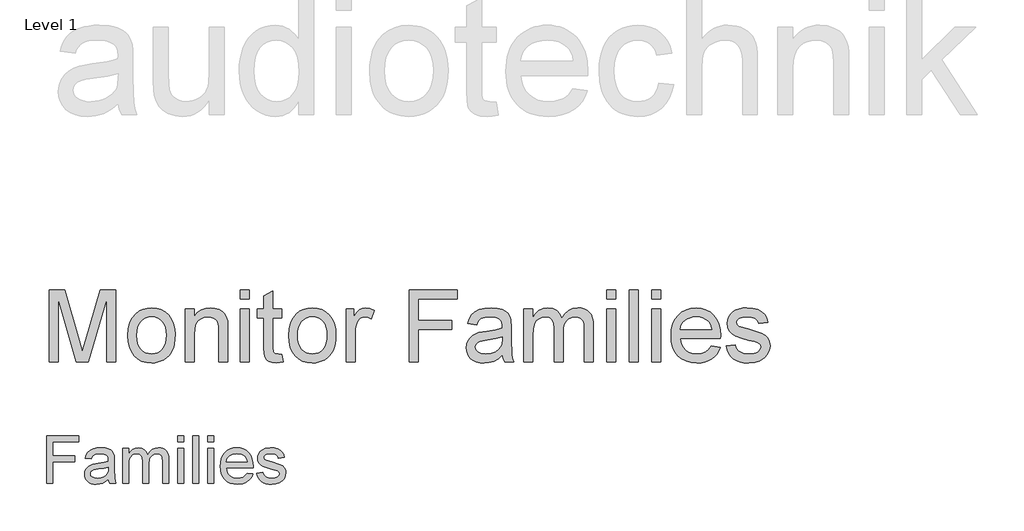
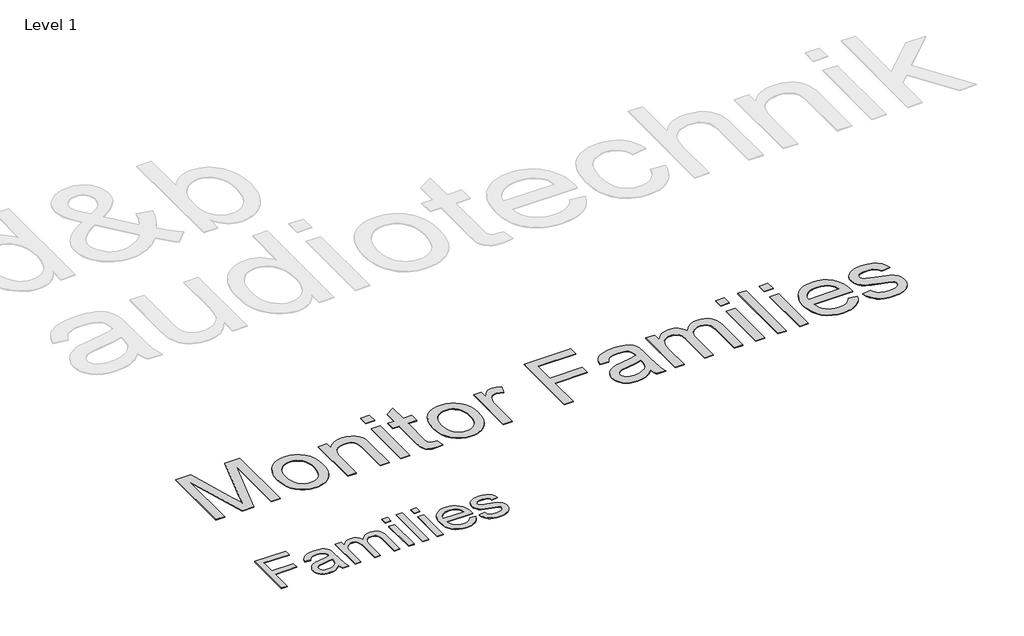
# One storey, part 5 of 7: 2 proxies.
"""IFC4 building model written with IfcOpenShell, lengths in millimetres."""

from ifc_helpers import new_model, si_unit, origin, origin_with_axes, place, context, project, spatial, polyline, outline, extrude, element, save

model = new_model("IFC4")

# Units and contexts
model_context = context("Model", 3, world=origin())
ifc_project = project(units=[si_unit("LENGTHUNIT", "METRE", prefix="MILLI")], contexts=[model_context])

# Site, building, storey
site = spatial("IfcSite", under=ifc_project)
building = spatial("IfcBuilding", under=site)
storey = spatial("IfcBuildingStorey", under=building, Name="Level 1", Elevation=0.0)

# Proxies
placement = place(None, origin())
element("IfcBuildingElementProxy", 1, Name="400mm Arial", ObjectType="400mm Arial", at=placement, inside=storey, context=model_context, shape_type="SweptSolid", body=[
    extrude(outline(polyline([(-21056.720891, 17351.3054836), (-21056.720891, 17743.0630593), (-20793.5087698, 17743.0630593), (-20793.5087698, 17694.0933624), (-21007.7511941, 17694.0933624), (-21007.7511941, 17577.7903321), (-20824.1148304, 17577.7903321), (-20824.1148304, 17528.8206351), (-21007.7511941, 17528.8206351), (-21007.7511941, 17351.3054836), (-21056.720891, 17351.3054836)])), origin_with_axes(), (0.0, 0.0, 1.0), 5.0),
    extrude(outline(polyline([(-20548.660285, 17388.0327563), (-20572.0571836, 17367.97144), (-20596.1475009, 17354.8443093), (-20621.4811893, 17347.5992809), (-20648.6082016, 17345.1842715), (-20670.4120309, 17346.6368638), (-20689.5318522, 17350.9946408), (-20705.9676654, 17358.2576024), (-20719.7194706, 17368.4257487), (-20730.5780466, 17380.8534831), (-20738.3341723, 17394.895209), (-20742.9878477, 17410.5509263), (-20744.5390729, 17427.8206351), (-20742.1957963, 17448.1210612), (-20735.1659668, 17466.5564305), (-20724.3223352, 17482.3376805), (-20710.5376524, 17494.6757487), (-20676.2493001, 17510.7439305), (-20633.879035, 17518.1085139), (-20583.8094327, 17525.855673), (-20548.9472168, 17534.9418472), (-20548.660285, 17545.8452563), (-20552.0317338, 17567.6998965), (-20562.1460804, 17581.9986654), (-20584.7658721, 17592.6151427), (-20616.2805501, 17596.1539684), (-20645.4519516, 17593.7987364), (-20665.8241107, 17586.7330404), (-20679.7163929, 17573.6656872), (-20689.4481638, 17553.3054836), (-20738.4178607, 17559.4266957), (-20729.9175056, 17586.2069987), (-20717.2327282, 17607.2486654), (-20699.1799346, 17623.3407582), (-20674.5755312, 17635.2723396), (-20644.4835568, 17642.660834), (-20609.9680501, 17645.1236654), (-20576.8632916, 17642.9477658), (-20550.6209857, 17636.4200669), (-20530.8346458, 17626.6046076), (-20517.097785, 17614.5654268), (-20507.9876997, 17599.6808387), (-20502.0816865, 17581.3291578), (-20499.690588, 17538.480673), (-20499.690588, 17477.5554836), (-20497.2038456, 17392.4801995), (-20487.4481638, 17351.3054836), (-20536.4178607, 17351.3054836), (-20544.2606638, 17368.3301048), (-20548.660285, 17388.0327563)]), holes=[polyline([(-20548.660285, 17485.9721502), (-20581.5618001, 17477.8185044), (-20627.6621789, 17470.9560518), (-20669.7933342, 17463.0176048), (-20680.7565208, 17457.5898112), (-20688.8743001, 17450.105673), (-20693.8956069, 17441.1390536), (-20695.5693759, 17431.2638169), (-20691.9229507, 17416.7020271), (-20680.9836751, 17404.7704457), (-20662.990659, 17396.8080877), (-20638.1830122, 17394.1539684), (-20611.8809289, 17397.0830641), (-20588.6394516, 17405.870351), (-20569.7975956, 17418.8181493), (-20556.6943759, 17434.228779), (-20550.8840066, 17450.105673), (-20548.9472168, 17472.103779), (-20548.660285, 17485.9721502)])]), origin_with_axes(), (0.0, 0.0, 1.0), 5.0),
    extrude(outline(polyline([(-20432.3572547, 17351.3054836), (-20432.3572547, 17639.0024533), (-20383.3875577, 17639.0024533), (-20383.3875577, 17591.6587033), (-20368.658391, 17613.405744), (-20349.720891, 17630.4423207), (-20327.2206543, 17641.4533292), (-20301.8032774, 17645.1236654), (-20274.5686657, 17641.3815963), (-20252.7379365, 17630.1553889), (-20236.4306448, 17612.1862838), (-20225.7663456, 17588.2155215), (-20207.9167954, 17613.1128344), (-20187.5565918, 17630.8966294), (-20164.6857348, 17641.5669064), (-20139.3042244, 17645.1236654), (-20119.7002057, 17643.6441732), (-20102.4932632, 17639.2056966), (-20087.683397, 17631.8082357), (-20075.2706069, 17621.4517904), (-20065.4581365, 17608.0168058), (-20058.4492291, 17591.3837269), (-20054.2438846, 17571.5525539), (-20052.8421032, 17548.5232866), (-20052.8421032, 17351.3054836), (-20101.8118001, 17351.3054836), (-20101.8118001, 17527.4816199), (-20106.3548872, 17568.369404), (-20112.7391202, 17579.6434334), (-20122.8056448, 17588.5024533), (-20135.7534431, 17594.2410896), (-20150.7814971, 17596.1539684), (-20177.3107348, 17591.2522165), (-20198.9382206, 17576.5469608), (-20207.3279874, 17565.2669537), (-20213.320678, 17551.03394), (-20218.1148304, 17513.7088927), (-20218.1148304, 17351.3054836), (-20267.0845274, 17351.3054836), (-20267.0845274, 17532.9333245), (-20269.9179791, 17560.6222449), (-20278.4183342, 17580.3727184), (-20293.3746552, 17592.2086559), (-20315.5760047, 17596.1539684), (-20334.4417717, 17593.5237601), (-20351.8250577, 17585.6331351), (-20366.1716486, 17572.6733813), (-20375.9273304, 17554.8357866), (-20381.5225009, 17530.0879173), (-20383.3875577, 17496.3973396), (-20383.3875577, 17351.3054836), (-20432.3572547, 17351.3054836)])), origin_with_axes(), (0.0, 0.0, 1.0), 5.0),
    extrude(outline(polyline([(-19979.3875577, 17351.3054836), (-19979.3875577, 17639.0024533), (-19930.4178607, 17639.0024533), (-19930.4178607, 17351.3054836), (-19979.3875577, 17351.3054836)])), origin_with_axes(), (0.0, 0.0, 1.0), 5.0),
    extrude(outline(polyline([(-19979.3875577, 17694.0933624), (-19979.3875577, 17743.0630593), (-19930.4178607, 17743.0630593), (-19930.4178607, 17694.0933624), (-19979.3875577, 17694.0933624)])), origin_with_axes(), (0.0, 0.0, 1.0), 5.0),
    extrude(outline(polyline([(-19856.9633153, 17351.3054836), (-19856.9633153, 17743.0630593), (-19807.9936183, 17743.0630593), (-19807.9936183, 17351.3054836), (-19856.9633153, 17351.3054836)])), origin_with_axes(), (0.0, 0.0, 1.0), 5.0),
    extrude(outline(polyline([(-19734.5390729, 17351.3054836), (-19734.5390729, 17639.0024533), (-19685.5693759, 17639.0024533), (-19685.5693759, 17351.3054836), (-19734.5390729, 17351.3054836)])), origin_with_axes(), (0.0, 0.0, 1.0), 5.0),
    extrude(outline(polyline([(-19734.5390729, 17694.0933624), (-19734.5390729, 17743.0630593), (-19685.5693759, 17743.0630593), (-19685.5693759, 17694.0933624), (-19734.5390729, 17694.0933624)])), origin_with_axes(), (0.0, 0.0, 1.0), 5.0),
    extrude(outline(polyline([(-19410.6886941, 17437.0024533), (-19362.6754365, 17430.8812411), (-19370.0370309, 17411.6508316), (-19379.975034, 17394.7039211), (-19392.4894457, 17380.0405096), (-19407.580266, 17367.6605972), (-19425.0920736, 17357.8272047), (-19444.8694469, 17350.8033529), (-19491.220891, 17345.1842715), (-19521.605775, 17347.6082475), (-19548.6789876, 17354.8801758), (-19572.4405288, 17367.0000563), (-19592.8903986, 17383.9678889), (-19609.3351784, 17405.3114317), (-19621.0814497, 17430.5584429), (-19628.1292125, 17459.7089223), (-19630.4784668, 17492.7628699), (-19628.1053015, 17526.937645), (-19620.9858058, 17557.0595082), (-19609.1199796, 17583.1284594), (-19592.5078229, 17605.1444987), (-19572.1117528, 17622.6353841), (-19548.8941865, 17635.1288737), (-19522.855124, 17642.6249675), (-19493.9945653, 17645.1236654), (-19466.0635461, 17642.6309452), (-19440.8045795, 17635.1527847), (-19418.2176654, 17622.6891839), (-19398.3028039, 17605.2401427), (-19382.0463231, 17583.2719253), (-19370.4345511, 17557.2507961), (-19363.4674879, 17527.1767549), (-19361.1451335, 17493.0498018), (-19361.4320653, 17479.8509381), (-19581.5087698, 17479.8509381), (-19578.6723292, 17460.3096858), (-19573.0323257, 17443.1953983), (-19564.5887592, 17428.5080759), (-19553.3416297, 17416.2477184), (-19524.9234242, 17399.6774059), (-19490.2644516, 17394.1539684), (-19464.2014782, 17396.7124438), (-19442.2511941, 17404.3878699), (-19424.4135994, 17417.6584665), (-19410.6886941, 17437.0024533)]), holes=[polyline([(-19581.5087698, 17528.8206351), (-19410.1148304, 17528.8206351), (-19416.7381732, 17554.6923207), (-19429.721838, 17573.199423), (-19443.076123, 17583.2420366), (-19458.2715539, 17590.4153321), (-19494.1858532, 17596.1539684), (-19527.1949677, 17591.5750148), (-19554.4893569, 17577.838154), (-19573.4627234, 17556.4258671), (-19581.5087698, 17528.8206351)])]), origin_with_axes(), (0.0, 0.0, 1.0), 5.0),
    extrude(outline(polyline([(-19330.5390729, 17437.0024533), (-19281.5693759, 17443.1236654), (-19273.8461278, 17422.1776427), (-19258.9017622, 17406.7789684), (-19236.6406354, 17397.3102184), (-19206.9671032, 17394.1539684), (-19177.6522357, 17397.0471976), (-19157.0409668, 17405.7268851), (-19144.8463645, 17418.3040631), (-19140.7814971, 17432.8897639), (-19144.8702755, 17445.371298), (-19157.1366107, 17454.8878699), (-19207.5409668, 17468.8518851), (-19281.2824441, 17492.8106919), (-19299.9449677, 17504.8498728), (-19313.4666297, 17520.7865442), (-19321.680053, 17539.6044893), (-19324.4178607, 17560.2874911), (-19322.2180501, 17579.2608576), (-19315.6186183, 17596.775654), (-19305.2173399, 17612.1384618), (-19291.6119895, 17624.6558624), (-19260.4798872, 17639.1459192), (-19218.3487319, 17645.1236654), (-19186.4753891, 17642.7206114), (-19158.7625577, 17635.5114495), (-19136.4775198, 17624.2015536), (-19120.8875577, 17609.496298), (-19110.5580122, 17590.3077326), (-19104.0542244, 17565.5479078), (-19153.0239213, 17559.4266957), (-19159.2049109, 17574.8373254), (-19171.4353797, 17586.4461086), (-19189.8348825, 17593.7270035), (-19214.5229744, 17596.1539684), (-19242.6422925, 17593.8346029), (-19261.3885047, 17586.8765063), (-19271.933249, 17576.8338927), (-19275.4481638, 17565.260976), (-19269.6138835, 17551.010029), (-19251.345891, 17540.2022639), (-19209.1669138, 17529.7770745), (-19137.2904933, 17506.7268851), (-19118.3051713, 17495.7039211), (-19103.9107585, 17480.6160896), (-19094.8365397, 17461.4155688), (-19091.8118001, 17438.0545366), (-19095.3625814, 17413.9044419), (-19106.0149251, 17391.1890063), (-19123.3623446, 17371.6895982), (-19146.9983532, 17357.1875858), (-19175.5480691, 17348.1851), (-19207.6366107, 17345.1842715), (-19233.9924938, 17346.630886), (-19257.0127944, 17350.9707298), (-19276.6975127, 17358.2038027), (-19293.0466486, 17368.3301048), (-19306.4009336, 17381.3018141), (-19317.1010994, 17397.0711086), (-19325.1471458, 17415.6379883), (-19330.5390729, 17437.0024533)])), origin_with_axes(), (0.0, 0.0, 1.0), 5.0),
])
element("IfcBuildingElementProxy", 2, Name="600mm Arial", ObjectType="600mm Arial", at=placement, inside=storey, context=model_context, shape_type="SweptSolid", body=[
    extrude(outline(polyline([(-21034.9539913, 18351.3054836), (-21034.9539913, 18942.0747143), (-20907.8866836, 18942.0747143), (-20787.021299, 18525.6804836), (-20762.646299, 18438.7093297), (-20736.2520682, 18532.892022), (-20617.4059143, 18942.0747143), (-20490.3386067, 18942.0747143), (-20490.3386067, 18351.3054836), (-20564.1847605, 18351.3054836), (-20564.1847605, 18868.2285605), (-20712.598222, 18351.3054836), (-20812.6943759, 18351.3054836), (-20961.1078374, 18868.2285605), (-20961.1078374, 18351.3054836), (-21034.9539913, 18351.3054836)])), origin_with_axes(), (0.0, 0.0, 1.0), 5.0),
    extrude(outline(polyline([(-20388.8001451, 18568.2285605), (-20384.8067557, 18624.4154595), (-20372.8265874, 18672.8319259), (-20352.8596403, 18713.4779595), (-20324.9059143, 18746.3535605), (-20296.7628855, 18767.3661807), (-20265.6991836, 18782.3751951), (-20231.7148086, 18791.3806038), (-20194.8097605, 18794.3824066), (-20154.0690754, 18790.7270581), (-20117.2316355, 18779.7610124), (-20084.2974408, 18761.4842696), (-20055.2664913, 18735.8968297), (-20031.5720802, 18703.8640773), (-20014.6475009, 18666.251397), (-20004.4927533, 18623.0587889), (-20001.1078374, 18574.2862528), (-20002.6042317, 18534.7580076), (-20007.0934143, 18499.6828874), (-20014.5753855, 18469.0608922), (-20025.0501451, 18442.892022), (-20038.3869841, 18420.2883562), (-20054.4551932, 18400.361974), (-20073.2547725, 18383.1128754), (-20094.785722, 18368.5410605), (-20118.2097004, 18356.9620341), (-20142.6883663, 18348.6913009), (-20168.2217196, 18343.728861), (-20194.8097605, 18342.0747143), (-20236.1453975, 18345.7165413), (-20273.3253855, 18356.642022), (-20306.3497244, 18374.8511566), (-20335.2184143, 18400.3439451), (-20358.6604216, 18432.6876951), (-20375.4047124, 18471.4497143), (-20385.4512869, 18516.6300028), (-20388.8001451, 18568.2285605)]), holes=[polyline([(-20314.9539913, 18568.3727913), (-20312.817573, 18532.5539812), (-20306.4083182, 18501.5398586), (-20295.7262268, 18475.3304235), (-20280.771299, 18453.9256759), (-20262.5801932, 18437.2985725), (-20242.1895682, 18425.4220701), (-20219.599424, 18418.2961687), (-20194.8097605, 18415.9208682), (-20170.146299, 18418.3096903), (-20147.646299, 18425.4761566), (-20127.3097605, 18437.4202672), (-20109.1366836, 18454.142022), (-20094.1817557, 18475.7586086), (-20083.4996643, 18502.3872143), (-20077.0904095, 18534.0278393), (-20074.9539913, 18570.6804836), (-20077.1039312, 18605.3634764), (-20083.5537509, 18635.5663009), (-20094.3034504, 18661.2889571), (-20109.3530297, 18682.5314451), (-20127.5937148, 18699.1585485), (-20147.9167317, 18711.0350509), (-20170.3220802, 18718.1609523), (-20194.8097605, 18720.5362528), (-20219.599424, 18718.1699667), (-20242.1895682, 18711.0711086), (-20262.5801932, 18699.2396783), (-20280.771299, 18682.6756759), (-20295.7262268, 18661.3340292), (-20306.4083182, 18635.1696663), (-20312.817573, 18604.1825869), (-20314.9539913, 18568.3727913)])]), origin_with_axes(), (0.0, 0.0, 1.0), 5.0),
    extrude(outline(polyline([(-19918.0309143, 18351.3054836), (-19918.0309143, 18785.1516374), (-19844.1847605, 18785.1516374), (-19844.1847605, 18724.5747143), (-19818.5297124, 18755.1155797), (-19787.7184143, 18776.9304836), (-19751.7508663, 18790.0194259), (-19710.6270682, 18794.3824066), (-19674.2268278, 18790.8667816), (-19640.8914913, 18780.3199066), (-19613.0910105, 18764.0578874), (-19593.2953374, 18743.3968297), (-19579.863847, 18718.3908201), (-19571.1559143, 18689.0939451), (-19567.2616836, 18617.6997143), (-19567.2616836, 18351.3054836), (-19641.1078374, 18351.3054836), (-19641.1078374, 18607.7477913), (-19643.2352413, 18645.9328874), (-19649.6174528, 18673.0843297), (-19661.3902893, 18692.5374547), (-19679.6895682, 18707.627599), (-19703.145097, 18717.3090893), (-19730.3866836, 18720.5362528), (-19752.810061, 18718.7243538), (-19773.6378855, 18713.2886566), (-19792.8701571, 18704.2291615), (-19810.5068759, 18691.5458682), (-19825.2409504, 18673.7964691), (-19835.7652893, 18649.5386566), (-19842.0798927, 18618.7724307), (-19844.1847605, 18581.4977913), (-19844.1847605, 18351.3054836), (-19918.0309143, 18351.3054836)])), origin_with_axes(), (0.0, 0.0, 1.0), 5.0),
    extrude(outline(polyline([(-19465.723222, 18868.2285605), (-19465.723222, 18942.0747143), (-19391.8770682, 18942.0747143), (-19391.8770682, 18868.2285605), (-19465.723222, 18868.2285605)])), origin_with_axes(), (0.0, 0.0, 1.0), 5.0),
    extrude(outline(polyline([(-19465.723222, 18351.3054836), (-19465.723222, 18785.1516374), (-19391.8770682, 18785.1516374), (-19391.8770682, 18351.3054836), (-19465.723222, 18351.3054836)])), origin_with_axes(), (0.0, 0.0, 1.0), 5.0),
    extrude(outline(polyline([(-19124.1847605, 18412.892022), (-19114.9539913, 18349.142022), (-19170.1943759, 18342.0747143), (-19205.6390874, 18345.1396182), (-19232.0693759, 18354.3343297), (-19250.7472605, 18368.5050028), (-19262.9347605, 18386.4977913), (-19269.6414913, 18417.3992336), (-19271.8770682, 18470.2958682), (-19271.8770682, 18711.3054836), (-19327.2616836, 18711.3054836), (-19327.2616836, 18785.1516374), (-19271.8770682, 18785.1516374), (-19271.8770682, 18890.5843297), (-19198.0309143, 18933.9977913), (-19198.0309143, 18785.1516374), (-19124.1847605, 18785.1516374), (-19124.1847605, 18711.3054836), (-19198.0309143, 18711.3054836), (-19198.0309143, 18472.4593297), (-19194.1366836, 18434.3824066), (-19181.5164913, 18420.8968297), (-19170.8614432, 18417.1648586), (-19156.348222, 18415.9208682), (-19124.1847605, 18412.892022)])), origin_with_axes(), (0.0, 0.0, 1.0), 5.0),
    extrude(outline(polyline([(-19068.8001451, 18568.2285605), (-19064.8067557, 18624.4154595), (-19052.8265874, 18672.8319259), (-19032.8596403, 18713.4779595), (-19004.9059143, 18746.3535605), (-18976.7628855, 18767.3661807), (-18945.6991836, 18782.3751951), (-18911.7148086, 18791.3806038), (-18874.8097605, 18794.3824066), (-18834.0690754, 18790.7270581), (-18797.2316355, 18779.7610124), (-18764.2974408, 18761.4842696), (-18735.2664913, 18735.8968297), (-18711.5720802, 18703.8640773), (-18694.6475009, 18666.251397), (-18684.4927533, 18623.0587889), (-18681.1078374, 18574.2862528), (-18682.6042317, 18534.7580076), (-18687.0934143, 18499.6828874), (-18694.5753855, 18469.0608922), (-18705.0501451, 18442.892022), (-18718.3869841, 18420.2883562), (-18734.4551932, 18400.361974), (-18753.2547725, 18383.1128754), (-18774.785722, 18368.5410605), (-18798.2097004, 18356.9620341), (-18822.6883663, 18348.6913009), (-18848.2217196, 18343.728861), (-18874.8097605, 18342.0747143), (-18916.1453975, 18345.7165413), (-18953.3253855, 18356.642022), (-18986.3497244, 18374.8511566), (-19015.2184143, 18400.3439451), (-19038.6604216, 18432.6876951), (-19055.4047124, 18471.4497143), (-19065.4512869, 18516.6300028), (-19068.8001451, 18568.2285605)]), holes=[polyline([(-18994.9539913, 18568.3727913), (-18992.817573, 18532.5539812), (-18986.4083182, 18501.5398586), (-18975.7262268, 18475.3304235), (-18960.771299, 18453.9256759), (-18942.5801932, 18437.2985725), (-18922.1895682, 18425.4220701), (-18899.599424, 18418.2961687), (-18874.8097605, 18415.9208682), (-18850.146299, 18418.3096903), (-18827.646299, 18425.4761566), (-18807.3097605, 18437.4202672), (-18789.1366836, 18454.142022), (-18774.1817557, 18475.7586086), (-18763.4996643, 18502.3872143), (-18757.0904095, 18534.0278393), (-18754.9539913, 18570.6804836), (-18757.1039312, 18605.3634764), (-18763.5537509, 18635.5663009), (-18774.3034504, 18661.2889571), (-18789.3530297, 18682.5314451), (-18807.5937148, 18699.1585485), (-18827.9167317, 18711.0350509), (-18850.3220802, 18718.1609523), (-18874.8097605, 18720.5362528), (-18899.599424, 18718.1699667), (-18922.1895682, 18711.0711086), (-18942.5801932, 18699.2396783), (-18960.771299, 18682.6756759), (-18975.7262268, 18661.3340292), (-18986.4083182, 18635.1696663), (-18992.817573, 18604.1825869), (-18994.9539913, 18568.3727913)])]), origin_with_axes(), (0.0, 0.0, 1.0), 5.0),
    extrude(outline(polyline([(-18598.0309143, 18351.3054836), (-18598.0309143, 18785.1516374), (-18533.4155297, 18785.1516374), (-18533.4155297, 18720.9689451), (-18509.5453374, 18758.1804836), (-18487.5501451, 18780.1035605), (-18465.4828374, 18790.8126951), (-18441.396299, 18794.3824066), (-18404.6174528, 18788.6852913), (-18367.2616836, 18771.5939451), (-18391.9251451, 18705.392022), (-18417.8866836, 18716.7501951), (-18443.848222, 18720.5362528), (-18465.8975009, 18716.8944259), (-18485.6030297, 18705.9689451), (-18501.5225009, 18688.5891374), (-18512.2136067, 18665.5843297), (-18521.191972, 18624.3343297), (-18524.1847605, 18579.3343297), (-18524.1847605, 18351.3054836), (-18598.0309143, 18351.3054836)])), origin_with_axes(), (0.0, 0.0, 1.0), 5.0),
    extrude(outline(polyline([(-18081.1078374, 18351.3054836), (-18081.1078374, 18942.0747143), (-17684.1847605, 18942.0747143), (-17684.1847605, 18868.2285605), (-18007.2616836, 18868.2285605), (-18007.2616836, 18692.8439451), (-17730.3386067, 18692.8439451), (-17730.3386067, 18618.9977913), (-18007.2616836, 18618.9977913), (-18007.2616836, 18351.3054836), (-18081.1078374, 18351.3054836)])), origin_with_axes(), (0.0, 0.0, 1.0), 5.0),
    extrude(outline(polyline([(-17314.9539913, 18406.690099), (-17350.2364432, 18376.4376951), (-17386.5645682, 18356.642022), (-17424.7676932, 18345.7165413), (-17465.6751451, 18342.0747143), (-17498.5552533, 18344.2652191), (-17527.3878855, 18350.8367336), (-17552.1730417, 18361.7892576), (-17572.910722, 18377.1227913), (-17589.2854216, 18395.8637768), (-17600.9816355, 18417.0386566), (-17607.9993639, 18440.6474307), (-17610.3386067, 18466.690099), (-17606.8049528, 18497.3030797), (-17596.2039913, 18525.1035605), (-17579.8518278, 18548.9016374), (-17559.0645682, 18567.5074066), (-17534.6354817, 18581.5699066), (-17507.3578374, 18591.7381759), (-17443.4636067, 18602.8439451), (-17367.958799, 18614.5266374), (-17315.3866836, 18628.2285605), (-17314.9539913, 18644.6708682), (-17320.0381259, 18677.627599), (-17326.3932942, 18689.8331278), (-17335.2905297, 18699.190099), (-17350.6691355, 18708.5290413), (-17369.4011067, 18715.1997143), (-17416.9251451, 18720.5362528), (-17460.9155297, 18716.9845701), (-17491.6366836, 18706.329522), (-17512.5862028, 18686.6239932), (-17527.2616836, 18655.9208682), (-17601.1078374, 18665.1516374), (-17588.2893278, 18705.5362528), (-17569.160722, 18737.267022), (-17541.9371643, 18761.533849), (-17504.833799, 18779.5266374), (-17459.4551932, 18790.6684643), (-17407.4059143, 18794.3824066), (-17357.4840393, 18791.1011566), (-17317.910722, 18781.2574066), (-17288.0729817, 18766.455724), (-17267.3578374, 18748.3006759), (-17253.6198567, 18725.8547624), (-17244.7136067, 18698.1804836), (-17241.1078374, 18633.565099), (-17241.1078374, 18541.690099), (-17237.3578374, 18413.3968297), (-17231.8049528, 18381.6840893), (-17222.646299, 18351.3054836), (-17296.4924528, 18351.3054836), (-17308.3193759, 18376.9785605), (-17314.9539913, 18406.690099)]), holes=[polyline([(-17314.9539913, 18554.3824066), (-17364.5693759, 18542.0867336), (-17434.0886067, 18531.7381759), (-17497.6222605, 18519.767022), (-17514.1547124, 18511.5819259), (-17526.396299, 18500.2958682), (-17533.9684143, 18486.7742336), (-17536.4924528, 18471.8824066), (-17530.9936547, 18449.923272), (-17514.4972605, 18431.9304836), (-17487.363847, 18419.923272), (-17449.9539913, 18415.9208682), (-17410.2905297, 18420.3379355), (-17375.2424528, 18433.5891374), (-17346.8289913, 18453.1143778), (-17327.0693759, 18476.3535605), (-17318.3073567, 18500.2958682), (-17315.3866836, 18533.4689451), (-17314.9539913, 18554.3824066)])]), origin_with_axes(), (0.0, 0.0, 1.0), 5.0),
    extrude(outline(polyline([(-17139.5693759, 18351.3054836), (-17139.5693759, 18785.1516374), (-17065.723222, 18785.1516374), (-17065.723222, 18713.7574066), (-17043.5116836, 18746.5518778), (-17014.9539913, 18772.2429836), (-16981.0237028, 18788.8475509), (-16942.6943759, 18794.3824066), (-16901.6246643, 18788.7393778), (-16884.145698, 18781.6855917), (-16868.7039913, 18771.8102913), (-16844.1126451, 18744.7129355), (-16828.0309143, 18708.565099), (-16801.113847, 18746.1101711), (-16770.410722, 18772.9280797), (-16735.9215393, 18789.0188249), (-16697.646299, 18794.3824066), (-16668.0834985, 18792.1513369), (-16642.1354817, 18785.4581278), (-16619.8022485, 18774.3027792), (-16601.083799, 18758.6852913), (-16586.2866235, 18738.4253754), (-16575.7172124, 18713.3427432), (-16569.3755658, 18683.4373946), (-16567.2616836, 18648.7093297), (-16567.2616836, 18351.3054836), (-16641.1078374, 18351.3054836), (-16641.1078374, 18616.9785605), (-16642.8205778, 18653.8114932), (-16647.958799, 18678.6372143), (-16657.5862028, 18695.6384163), (-16672.7664913, 18708.9977913), (-16692.2917317, 18717.6516374), (-16714.9539913, 18720.5362528), (-16735.8809744, 18718.6882961), (-16754.9600009, 18713.1444259), (-16772.1910706, 18703.9046422), (-16787.5741836, 18690.9689451), (-16800.2259264, 18673.9587288), (-16809.2628855, 18652.4953874), (-16814.685061, 18626.5789211), (-16816.4924528, 18596.2093297), (-16816.4924528, 18351.3054836), (-16890.3386067, 18351.3054836), (-16890.3386067, 18625.1997143), (-16894.6114432, 18666.954522), (-16907.4299528, 18696.7381759), (-16917.341311, 18707.1498345), (-16929.9840393, 18714.5867336), (-16945.3581379, 18719.048873), (-16963.4636067, 18720.5362528), (-16991.9131259, 18716.5699066), (-17018.1270682, 18704.6708682), (-17039.7616836, 18685.127599), (-17054.473222, 18658.2285605), (-17062.910722, 18620.908849), (-17065.723222, 18570.1035605), (-17065.723222, 18351.3054836), (-17139.5693759, 18351.3054836)])), origin_with_axes(), (0.0, 0.0, 1.0), 5.0),
    extrude(outline(polyline([(-16456.4924528, 18351.3054836), (-16456.4924528, 18785.1516374), (-16382.646299, 18785.1516374), (-16382.646299, 18351.3054836), (-16456.4924528, 18351.3054836)])), origin_with_axes(), (0.0, 0.0, 1.0), 5.0),
    extrude(outline(polyline([(-16456.4924528, 18868.2285605), (-16456.4924528, 18942.0747143), (-16382.646299, 18942.0747143), (-16382.646299, 18868.2285605), (-16456.4924528, 18868.2285605)])), origin_with_axes(), (0.0, 0.0, 1.0), 5.0),
    extrude(outline(polyline([(-16271.8770682, 18351.3054836), (-16271.8770682, 18942.0747143), (-16198.0309143, 18942.0747143), (-16198.0309143, 18351.3054836), (-16271.8770682, 18351.3054836)])), origin_with_axes(), (0.0, 0.0, 1.0), 5.0),
    extrude(outline(polyline([(-16087.2616836, 18351.3054836), (-16087.2616836, 18785.1516374), (-16013.4155297, 18785.1516374), (-16013.4155297, 18351.3054836), (-16087.2616836, 18351.3054836)])), origin_with_axes(), (0.0, 0.0, 1.0), 5.0),
    extrude(outline(polyline([(-16087.2616836, 18868.2285605), (-16087.2616836, 18942.0747143), (-16013.4155297, 18942.0747143), (-16013.4155297, 18868.2285605), (-16087.2616836, 18868.2285605)])), origin_with_axes(), (0.0, 0.0, 1.0), 5.0),
    extrude(outline(polyline([(-15598.896299, 18480.5362528), (-15526.4924528, 18471.3054836), (-15537.5937148, 18442.3060845), (-15552.5801932, 18416.7501951), (-15571.4518879, 18394.6378153), (-15594.208799, 18375.9689451), (-15620.6165514, 18361.1402191), (-15650.4407701, 18350.548272), (-15683.6814552, 18344.1931038), (-15720.3386067, 18342.0747143), (-15766.1589192, 18345.7300629), (-15806.9852413, 18356.6961086), (-15842.817573, 18374.9728514), (-15873.6559143, 18400.5602913), (-15898.4545922, 18432.7462889), (-15916.1679336, 18470.8187047), (-15926.7959384, 18514.7775389), (-15930.3386067, 18564.6227913), (-15926.7598807, 18616.158248), (-15916.0237028, 18661.5819259), (-15898.130073, 18700.8938249), (-15873.0789913, 18734.0939451), (-15842.3217797, 18760.470147), (-15807.3097605, 18779.3102913), (-15768.0429336, 18790.6143778), (-15724.521299, 18794.3824066), (-15682.4014071, 18790.6233922), (-15644.3109624, 18779.346349), (-15610.2499648, 18760.5512768), (-15580.2184143, 18734.2381759), (-15555.7036908, 18701.1101711), (-15538.193174, 18661.8703874), (-15527.6868639, 18616.5188249), (-15524.1847605, 18565.0554836), (-15524.6174528, 18545.1516374), (-15856.4924528, 18545.1516374), (-15852.2151091, 18515.6834884), (-15843.7100009, 18489.8751951), (-15830.9771283, 18467.7267576), (-15814.0164913, 18449.2381759), (-15793.7655898, 18434.6618538), (-15771.161924, 18424.2501951), (-15746.2054937, 18418.0031999), (-15718.896299, 18415.9208682), (-15679.5934143, 18419.7790413), (-15646.4924528, 18431.3535605), (-15619.5934143, 18451.3655797), (-15598.896299, 18480.5362528)]), holes=[polyline([(-15856.4924528, 18618.9977913), (-15598.0309143, 18618.9977913), (-15608.0188951, 18658.0122143), (-15616.6096403, 18673.3547624), (-15627.598222, 18685.9208682), (-15647.7364432, 18701.065099), (-15670.6511067, 18711.8824066), (-15696.3422124, 18718.3727913), (-15724.8097605, 18720.5362528), (-15750.7758062, 18718.8099908), (-15774.5874047, 18713.6312047), (-15796.2445562, 18704.9998946), (-15815.7472605, 18692.9160605), (-15832.1129456, 18677.9385966), (-15844.3590393, 18660.626397), (-15852.4855417, 18640.9794619), (-15856.4924528, 18618.9977913)])]), origin_with_axes(), (0.0, 0.0, 1.0), 5.0),
    extrude(outline(polyline([(-15478.0309143, 18480.5362528), (-15404.1847605, 18489.767022), (-15399.7226211, 18472.9280797), (-15392.5381259, 18458.1804836), (-15382.6312749, 18445.5242336), (-15370.0020682, 18434.9593297), (-15354.614448, 18426.6300028), (-15336.4323567, 18420.6804836), (-15291.6847605, 18415.9208682), (-15247.4780297, 18420.283849), (-15230.2965393, 18425.7375749), (-15216.396299, 18433.3727913), (-15198.0068759, 18452.3391374), (-15191.8770682, 18474.3343297), (-15193.4185345, 18484.3042816), (-15198.0429336, 18493.1564451), (-15216.5405297, 18507.5074066), (-15244.1967797, 18516.8824066), (-15292.5501451, 18528.565099), (-15359.941972, 18548.0542816), (-15403.7520682, 18564.6949066), (-15431.895097, 18582.8499547), (-15452.285722, 18606.8824066), (-15464.6715393, 18635.2598105), (-15468.8001451, 18666.4497143), (-15465.4828374, 18695.0614932), (-15455.5309143, 18721.4737528), (-15439.8458182, 18744.6408201), (-15419.3289913, 18763.517022), (-15398.9383663, 18775.3980316), (-15372.3818759, 18785.3679836), (-15341.6787509, 18792.1288009), (-15308.848222, 18794.3824066), (-15260.7833182, 18790.7586086), (-15218.9924528, 18779.8872143), (-15185.3866836, 18762.8319259), (-15161.8770682, 18740.6564451), (-15146.3001451, 18711.720147), (-15136.4924528, 18674.3824066), (-15210.3386067, 18665.1516374), (-15219.6595201, 18688.3908201), (-15238.1030297, 18705.8968297), (-15265.849424, 18716.876397), (-15303.0789913, 18720.5362528), (-15345.4828374, 18717.0386566), (-15373.7520682, 18706.5458682), (-15389.6535105, 18691.4016374), (-15394.9539913, 18673.9497143), (-15392.754472, 18662.5915413), (-15386.1559143, 18652.4593297), (-15374.8698567, 18643.408849), (-15358.6078374, 18636.1612528), (-15295.0020682, 18620.440099), (-15186.6126451, 18585.6804836), (-15157.9828374, 18569.0578874), (-15136.2761067, 18546.3054836), (-15122.5922124, 18517.3511566), (-15118.0309143, 18482.1227913), (-15123.3854817, 18445.704522), (-15139.4491836, 18411.4497143), (-15165.6090393, 18382.0446663), (-15201.2520682, 18360.1756759), (-15244.3049528, 18346.5999547), (-15292.6943759, 18342.0747143), (-15332.4389672, 18344.2562047), (-15367.1535105, 18350.8006759), (-15396.8380057, 18361.7081278), (-15421.4924528, 18376.9785605), (-15441.630674, 18396.5398586), (-15457.7664913, 18420.3199066), (-15469.8999047, 18448.3187047), (-15478.0309143, 18480.5362528)])), origin_with_axes(), (0.0, 0.0, 1.0), 5.0),
])

save(model, "model.ifc")
